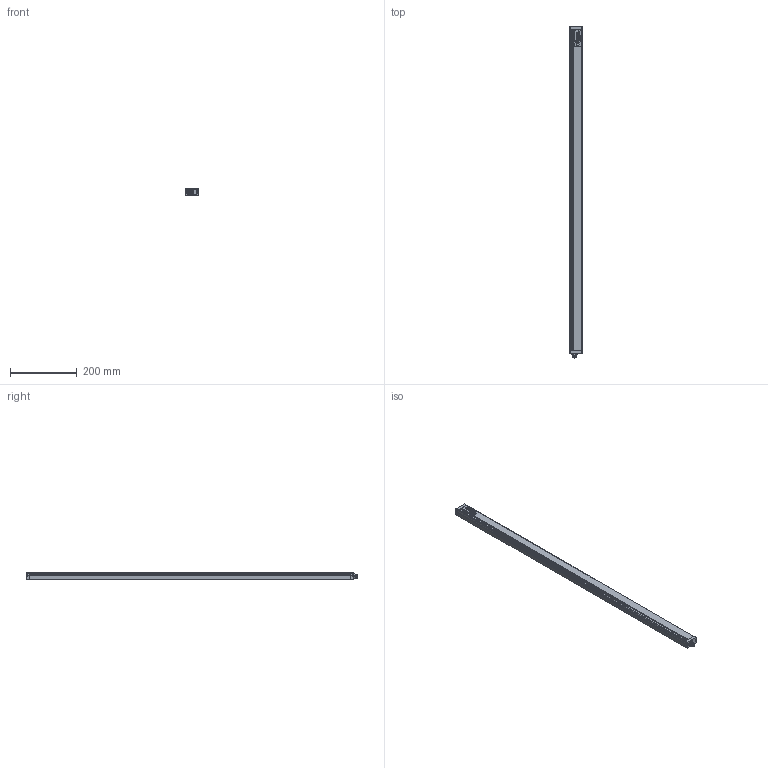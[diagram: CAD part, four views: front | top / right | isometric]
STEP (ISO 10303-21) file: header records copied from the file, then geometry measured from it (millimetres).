
FILE_DESCRIPTION(/* description */ (''),/* implementation_level */ '2;1');
FILE_NAME(/* name */ 'C:\Users\andre\SynologyDrive\Optoscan\Libreria Componenti\00 - Barriere\Polaris sorgente\Polaris_960_TX.stp',/* time_stamp */ '2021-06-04T10:58:32+02:00',/* author */ ('andre'),/* organization */ (''),/* preprocessor_version */ 'ST-DEVELOPER v18',/* originating_system */ 'Autodesk Inventor 2020',/* authorisation */ '');
FILE_SCHEMA (('AUTOMOTIVE_DESIGN { 1 0 10303 214 3 1 1 }'));
Length unit declared in the file: millimetre
Products named in the file (1): Polaris_960_TX
Bounding box: 40.5 x 992.8 x 20.75 mm (x, y, z)
Volume: 198071.8 mm3; surface area: 258778.3 mm2
Topology: 1 solids, 1 shells, 743 faces, 2072 edges, 1332 vertices
Faces by surface type: plane 332, cylinder 208, bspline 115, torus 74, cone 8, sphere 6
Full cylindrical faces by diameter (mm): 1 x8, 2.459 x4, 2.5 x4, 3 x4, 3.5 x4, 5.5 x4, 8 x1, 10.5 x2, 11.75 x9, 12 x1, 12.3 x3, 14.5 x1, 16.7 x1, 17.5 x1
Entity records: 30714 total; most frequent: CARTESIAN_POINT 11308, ORIENTED_EDGE 4130, DIRECTION 3590, EDGE_CURVE 2065, VERTEX_POINT 1333, AXIS2_PLACEMENT_3D 1263, LINE 1064, VECTOR 1064
